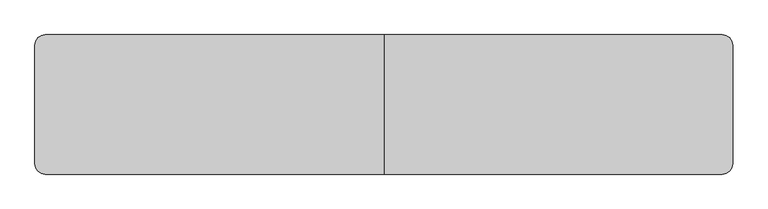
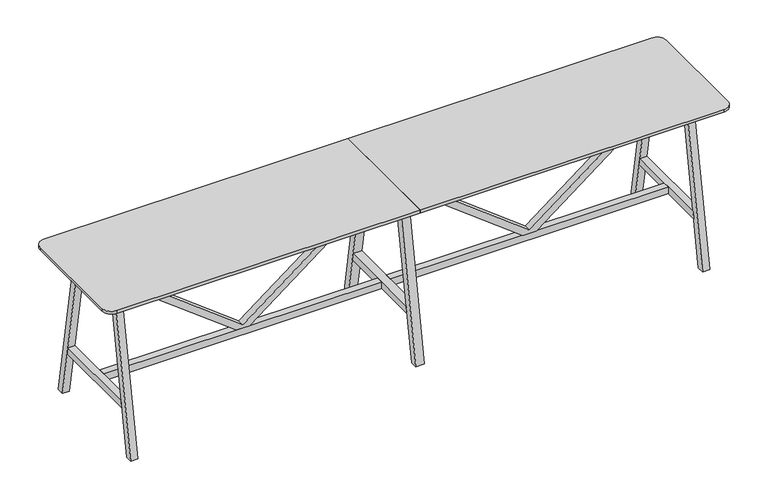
"""IFC4 building model written with IfcOpenShell, lengths in millimetres: furniture geometry, BDG_BossDesign_Tbls_AgentTables6Legs : AGE-HT-6L-4000-800-3D."""

from ifc_helpers import new_model, si_unit, point, frame, frame_2d, origin, place, context, project, spatial, polyline, circle_curve, trimmed, segment, composite_curve, outline, extrude, source, transform, mapped, element, save


def furniture_f8ce24c6(model_context):
    return source(origin(), model_context, "Body", "SweptSolid", [
        extrude(outline(polyline([(345.0, 874.0823957), (345.0, 958.4176043), (992.0, 1805.0), (1032.0, 1805.0), (1032.0, 1785.0), (365.0, 916.25), (1032.0, 47.5), (1032.0, 27.5), (992.0, 27.5), (345.0, 874.0823957)])), frame((0.0, -22.5000305, 0.0), z_axis=(0.0, 1.0, 0.0), x_axis=(0.0, 0.0, 1.0)), (0.0, 0.0, 1.0), 45.000061),
        extrude(outline(polyline([(345.0, -874.0823957), (992.0, -27.5), (1032.0, -27.5), (1032.0, -47.5), (365.0, -916.25), (1032.0, -1785.0), (1032.0, -1805.0), (992.0, -1805.0), (345.0, -958.4176043), (345.0, -874.0823957)])), frame((0.0, -22.5000305, 0.0), z_axis=(0.0, 1.0, 0.0), x_axis=(0.0, 0.0, 1.0)), (0.0, 0.0, 1.0), 45.000061),
        extrude(outline(polyline([(400.0, 0.0), (354.9999949, 0.0), (185.5, 970.0), (230.5000051, 970.0), (400.0, 0.0)])), frame((-27.5, 0.0, 0.0), z_axis=(1.0, 0.0, 0.0), x_axis=(0.0, 1.0, 0.0)), (0.0, 0.0, 1.0), 55.0),
        extrude(outline(polyline([(-400.0, 0.0), (-230.5000051, 970.0), (-185.5, 970.0), (-354.9999949, 0.0), (-400.0, 0.0)])), frame((-27.5, 0.0, 0.0), z_axis=(1.0, 0.0, 0.0), x_axis=(0.0, 1.0, 0.0)), (0.0, 0.0, 1.0), 55.0),
        extrude(outline(polyline([(302.5773161, 300.0), (-302.5773161, 300.0), (-294.7139143, 345.0), (294.7139143, 345.0), (302.5773161, 300.0)])), frame((-27.5, 0.0, 0.0), z_axis=(1.0, 0.0, 0.0), x_axis=(0.0, 1.0, 0.0)), (0.0, 0.0, 1.0), 55.0),
        extrude(outline(composite_curve([segment(polyline([(0.0, 400.0), (0.0, -400.0), (-1940.0, -400.0)]), True, "CONTINUOUS"), segment(trimmed(circle_curve(frame_2d((-1940.0, -340.0)), 60.0), [point((-1940.0, -400.0))], [point((-2000.0, -340.0))], False, "CARTESIAN"), True, "CONTINUOUS"), segment(polyline([(-2000.0, -340.0), (-2000.0, 340.0)]), True, "CONTINUOUS"), segment(trimmed(circle_curve(frame_2d((-1940.0, 340.0)), 60.0), [point((-2000.0, 340.0))], [point((-1940.0, 400.0))], False, "CARTESIAN"), True, "CONTINUOUS"), segment(polyline([(-1940.0, 400.0), (0.0, 400.0)]), True, "CONTINUOUS")], self_intersect=False)), frame((0.0, 0.0, 1032.0), z_axis=(0.0, 0.0, 1.0), x_axis=(1.0, 0.0, 0.0)), (0.0, 0.0, 1.0), 18.0),
        extrude(outline(polyline([(-294.7139143, 345.0), (294.7139143, 345.0), (302.5773161, 300.0), (-302.5773161, 300.0), (-294.7139143, 345.0)])), frame((1805.0, 0.0, 0.0), z_axis=(1.0, 0.0, 0.0), x_axis=(0.0, 1.0, 0.0)), (0.0, 0.0, 1.0), 45.0),
        extrude(outline(polyline([(400.0, 0.0), (354.9999949, 0.0), (185.5, 970.0), (230.5000051, 970.0), (400.0, 0.0)])), frame((-1850.0, 0.0, 0.0), z_axis=(1.0, 0.0, 0.0), x_axis=(0.0, 1.0, 0.0)), (0.0, 0.0, 1.0), 45.0),
        extrude(outline(polyline([(-400.0, 0.0), (-230.5000051, 970.0), (-185.5, 970.0), (-354.9999949, 0.0), (-400.0, 0.0)])), frame((-1850.0, 0.0, 0.0), z_axis=(1.0, 0.0, 0.0), x_axis=(0.0, 1.0, 0.0)), (0.0, 0.0, 1.0), 45.0),
        extrude(outline(polyline([(-294.7139143, 345.0), (294.7139143, 345.0), (302.5773161, 300.0), (-302.5773161, 300.0), (-294.7139143, 345.0)])), frame((-1850.0, 0.0, 0.0), z_axis=(1.0, 0.0, 0.0), x_axis=(0.0, 1.0, 0.0)), (0.0, 0.0, 1.0), 45.0),
        extrude(outline(polyline([(-226.6006165, 944.973938), (-204.2770691, 1032.0), (-179.5, 1032.0), (-201.8235474, 944.973938), (-226.6006165, 944.973938)])), frame((-1805.0, 0.0, 0.0), z_axis=(1.0, 0.0, 0.0), x_axis=(0.0, 1.0, 0.0)), (0.0, 0.0, 1.0), 3610.0),
        extrude(outline(polyline([(226.6006165, 944.973938), (201.8235474, 944.973938), (179.5, 1032.0), (204.2770691, 1032.0), (226.6006165, 944.973938)])), frame((-1805.0, 0.0, 0.0), z_axis=(1.0, 0.0, 0.0), x_axis=(0.0, 1.0, 0.0)), (0.0, 0.0, 1.0), 3610.0),
        extrude(outline(polyline([(399.7999878, 0.0), (354.7999827, 0.0), (185.5, 970.0), (230.5000051, 970.0), (399.7999878, 0.0)])), frame((1805.0, 0.0, 0.0), z_axis=(1.0, 0.0, 0.0), x_axis=(0.0, 1.0, 0.0)), (0.0, 0.0, 1.0), 45.0),
        extrude(outline(polyline([(-399.7999878, 0.0), (-230.5000051, 970.0), (-185.5, 970.0), (-354.7999827, 0.0), (-399.7999878, 0.0)])), frame((1805.0, 0.0, 0.0), z_axis=(1.0, 0.0, 0.0), x_axis=(0.0, 1.0, 0.0)), (0.0, 0.0, 1.0), 45.0),
        extrude(outline(polyline([(-27.5, 22.5000305), (-27.5, -22.5000305), (-1805.0, -22.5000305), (-1805.0, 22.5000305), (-27.5, 22.5000305)])), frame((0.0, 0.0, 300.0), z_axis=(0.0, 0.0, 1.0), x_axis=(1.0, 0.0, 0.0)), (0.0, 0.0, 1.0), 45.0),
        extrude(outline(polyline([(27.5, -22.5000305), (27.5, 22.5000305), (1805.0, 22.5000305), (1805.0, -22.5000305), (27.5, -22.5000305)])), frame((0.0, 0.0, 300.0), z_axis=(0.0, 0.0, 1.0), x_axis=(1.0, 0.0, 0.0)), (0.0, 0.0, 1.0), 45.0),
        extrude(outline(composite_curve([segment(trimmed(circle_curve(frame_2d((1940.0, 340.0)), 60.0), [point((1940.0, 400.0))], [point((2000.0, 340.0))], False, "CARTESIAN"), True, "CONTINUOUS"), segment(polyline([(2000.0, 340.0), (2000.0, -340.0)]), True, "CONTINUOUS"), segment(trimmed(circle_curve(frame_2d((1940.0, -340.0)), 60.0), [point((2000.0, -340.0))], [point((1940.0, -400.0))], False, "CARTESIAN"), True, "CONTINUOUS"), segment(polyline([(1940.0, -400.0), (0.0, -400.0), (0.0, 400.0), (1940.0, 400.0)]), True, "CONTINUOUS")], self_intersect=False)), frame((0.0, 0.0, 1032.0), z_axis=(0.0, 0.0, 1.0), x_axis=(1.0, 0.0, 0.0)), (0.0, 0.0, 1.0), 18.0),
    ])


if __name__ == "__main__":
    model = new_model("IFC4")
    model_context = context("Model", 3, world=origin())
    ifc_project = project(units=[si_unit("LENGTHUNIT", "METRE", prefix="MILLI")], contexts=[model_context])
    site = spatial("IfcSite", under=ifc_project)
    building = spatial("IfcBuilding", under=site)
    placement = place(None, origin())
    furniture_shape = furniture_f8ce24c6(model_context)
    element("IfcFurniture", 1, ObjectType="BDG_BossDesign_Tbls_AgentTables6Legs : AGE-HT-6L-4000-800-3D", at=placement, inside=building, context=model_context, shape_type="MappedRepresentation", body=[
        mapped(furniture_shape, transform((0.0, 0.0, 0.0), x_axis=(1.0, 0.0, 0.0), y_axis=(0.0, 1.0, 0.0), z_axis=(0.0, 0.0, 1.0))),
    ])
    save(model, "model.ifc")
